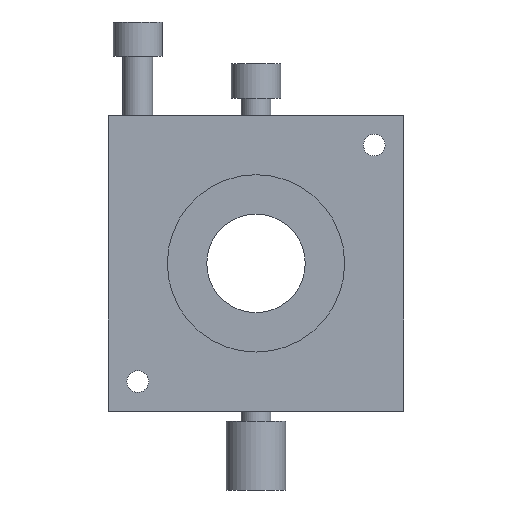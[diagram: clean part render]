
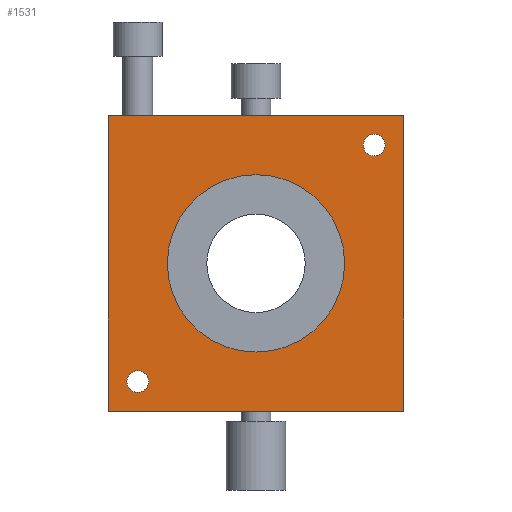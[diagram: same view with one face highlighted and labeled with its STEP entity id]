
A CAD part, front view. The second image highlights one B-rep face of the part: STEP entity #1531.
In plain terms, the highlighted planar face has unit normal (0, -1, 0).
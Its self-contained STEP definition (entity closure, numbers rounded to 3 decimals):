
#166 = CARTESIAN_POINT ( 'NONE',  ( 0., 0., -9. ) ) ;
#167 = DIRECTION ( 'NONE',  ( 0., 0., 1. ) ) ;
#168 = DIRECTION ( 'NONE',  ( 0., 1., 0. ) ) ;
#169 = CARTESIAN_POINT ( 'NONE',  ( 0., 0., 0. ) ) ;
#170 = AXIS2_PLACEMENT_3D ( 'NONE', #169, #168, #167 ) ;
#171 = CIRCLE ( 'NONE', #170, 9. ) ;
#172 = CARTESIAN_POINT ( 'NONE',  ( 0., 0., 9. ) ) ;
#417 = CIRCLE ( 'NONE', #482, 1.1 ) ;
#422 = CARTESIAN_POINT ( 'NONE',  ( 12., 0., 13.1 ) ) ;
#424 = CARTESIAN_POINT ( 'NONE',  ( -12., 0., -10.9 ) ) ;
#478 = CARTESIAN_POINT ( 'NONE',  ( -12., 0., -13.1 ) ) ;
#479 = DIRECTION ( 'NONE',  ( 0., 0., 1. ) ) ;
#480 = DIRECTION ( 'NONE',  ( 0., 1., 0. ) ) ;
#481 = CARTESIAN_POINT ( 'NONE',  ( -12., 0., -12. ) ) ;
#482 = AXIS2_PLACEMENT_3D ( 'NONE', #481, #480, #479 ) ;
#538 = CARTESIAN_POINT ( 'NONE',  ( 12., 0., 10.9 ) ) ;
#539 = DIRECTION ( 'NONE',  ( 0., 0., 1. ) ) ;
#540 = DIRECTION ( 'NONE',  ( 0., 1., 0. ) ) ;
#541 = CARTESIAN_POINT ( 'NONE',  ( 12., 0., 12. ) ) ;
#542 = AXIS2_PLACEMENT_3D ( 'NONE', #541, #540, #539 ) ;
#543 = CIRCLE ( 'NONE', #542, 1.1 ) ;
#809 = DIRECTION ( 'NONE',  ( 0., 0., 1. ) ) ;
#810 = DIRECTION ( 'NONE',  ( 0., 1., 0. ) ) ;
#811 = AXIS2_PLACEMENT_3D ( 'NONE', #817, #810, #809 ) ;
#812 = CIRCLE ( 'NONE', #811, 1.1 ) ;
#817 = CARTESIAN_POINT ( 'NONE',  ( 12., 0., 12. ) ) ;
#855 = DIRECTION ( 'NONE',  ( 0., 0., 1. ) ) ;
#856 = DIRECTION ( 'NONE',  ( 0., 1., 0. ) ) ;
#857 = CARTESIAN_POINT ( 'NONE',  ( -12., 0., -12. ) ) ;
#858 = AXIS2_PLACEMENT_3D ( 'NONE', #857, #856, #855 ) ;
#859 = CIRCLE ( 'NONE', #858, 1.1 ) ;
#1491 = EDGE_CURVE ( 'NONE', #1934, #1937, #2660, .T. ) ;
#1531 = ADVANCED_FACE ( 'NONE', ( #2739, #2734, #2733, #2732 ), #2731, .T. ) ;
#1532 = EDGE_LOOP ( 'NONE', ( #1533, #1534 ) ) ;
#1533 = ORIENTED_EDGE ( 'NONE', *, *, #2266, .T. ) ;
#1534 = ORIENTED_EDGE ( 'NONE', *, *, #2058, .T. ) ;
#1535 = EDGE_LOOP ( 'NONE', ( #1536, #1537 ) ) ;
#1536 = ORIENTED_EDGE ( 'NONE', *, *, #2258, .T. ) ;
#1537 = ORIENTED_EDGE ( 'NONE', *, *, #2092, .T. ) ;
#1538 = EDGE_LOOP ( 'NONE', ( #1539, #1543, #1593, #1596 ) ) ;
#1539 = ORIENTED_EDGE ( 'NONE', *, *, #1540, .F. ) ;
#1540 = EDGE_CURVE ( 'NONE', #1541, #1542, #2726, .T. ) ;
#1541 = VERTEX_POINT ( 'NONE', #2722 ) ;
#1542 = VERTEX_POINT ( 'NONE', #2721 ) ;
#1543 = ORIENTED_EDGE ( 'NONE', *, *, #1544, .F. ) ;
#1544 = EDGE_CURVE ( 'NONE', #1592, #1541, #2790, .T. ) ;
#1592 = VERTEX_POINT ( 'NONE', #2881 ) ;
#1593 = ORIENTED_EDGE ( 'NONE', *, *, #1594, .F. ) ;
#1594 = EDGE_CURVE ( 'NONE', #1595, #1592, #2880, .T. ) ;
#1595 = VERTEX_POINT ( 'NONE', #2876 ) ;
#1596 = ORIENTED_EDGE ( 'NONE', *, *, #1597, .F. ) ;
#1597 = EDGE_CURVE ( 'NONE', #1542, #1595, #2875, .T. ) ;
#1598 = EDGE_LOOP ( 'NONE', ( #1599, #1600 ) ) ;
#1599 = ORIENTED_EDGE ( 'NONE', *, *, #1936, .T. ) ;
#1600 = ORIENTED_EDGE ( 'NONE', *, *, #1491, .T. ) ;
#1934 = VERTEX_POINT ( 'NONE', #172 ) ;
#1936 = EDGE_CURVE ( 'NONE', #1937, #1934, #171, .T. ) ;
#1937 = VERTEX_POINT ( 'NONE', #166 ) ;
#2053 = VERTEX_POINT ( 'NONE', #424 ) ;
#2055 = VERTEX_POINT ( 'NONE', #422 ) ;
#2058 = EDGE_CURVE ( 'NONE', #2059, #2053, #417, .T. ) ;
#2059 = VERTEX_POINT ( 'NONE', #478 ) ;
#2092 = EDGE_CURVE ( 'NONE', #2093, #2055, #543, .T. ) ;
#2093 = VERTEX_POINT ( 'NONE', #538 ) ;
#2258 = EDGE_CURVE ( 'NONE', #2055, #2093, #812, .T. ) ;
#2266 = EDGE_CURVE ( 'NONE', #2053, #2059, #859, .T. ) ;
#2657 = DIRECTION ( 'NONE',  ( 0., 0., 1. ) ) ;
#2658 = DIRECTION ( 'NONE',  ( 0., 1., 0. ) ) ;
#2659 = AXIS2_PLACEMENT_3D ( 'NONE', #2665, #2658, #2657 ) ;
#2660 = CIRCLE ( 'NONE', #2659, 9. ) ;
#2665 = CARTESIAN_POINT ( 'NONE',  ( 0., 0., 0. ) ) ;
#2721 = CARTESIAN_POINT ( 'NONE',  ( -15., 0., 15. ) ) ;
#2722 = CARTESIAN_POINT ( 'NONE',  ( -15., 0., -15. ) ) ;
#2723 = DIRECTION ( 'NONE',  ( 0., 0., 1. ) ) ;
#2724 = VECTOR ( 'NONE', #2723, 1000. ) ;
#2725 = CARTESIAN_POINT ( 'NONE',  ( -15., 0., 15. ) ) ;
#2726 = LINE ( 'NONE', #2725, #2724 ) ;
#2727 = DIRECTION ( 'NONE',  ( 0., 0., -1. ) ) ;
#2728 = DIRECTION ( 'NONE',  ( 0., -1., 0. ) ) ;
#2729 = CARTESIAN_POINT ( 'NONE',  ( -15., 0., -15. ) ) ;
#2730 = AXIS2_PLACEMENT_3D ( 'NONE', #2729, #2728, #2727 ) ;
#2731 = PLANE ( 'NONE',  #2730 ) ;
#2732 = FACE_BOUND ( 'NONE', #1598, .T. ) ;
#2733 = FACE_OUTER_BOUND ( 'NONE', #1538, .T. ) ;
#2734 = FACE_BOUND ( 'NONE', #1535, .T. ) ;
#2739 = FACE_BOUND ( 'NONE', #1532, .T. ) ;
#2787 = DIRECTION ( 'NONE',  ( -1., 0., 0. ) ) ;
#2788 = VECTOR ( 'NONE', #2787, 1000. ) ;
#2789 = CARTESIAN_POINT ( 'NONE',  ( -15., 0., -15. ) ) ;
#2790 = LINE ( 'NONE', #2789, #2788 ) ;
#2872 = DIRECTION ( 'NONE',  ( 1., 0., 0. ) ) ;
#2873 = VECTOR ( 'NONE', #2872, 1000. ) ;
#2874 = CARTESIAN_POINT ( 'NONE',  ( -15., 0., 15. ) ) ;
#2875 = LINE ( 'NONE', #2874, #2873 ) ;
#2876 = CARTESIAN_POINT ( 'NONE',  ( 15., 0., 15. ) ) ;
#2877 = DIRECTION ( 'NONE',  ( 0., 0., -1. ) ) ;
#2878 = VECTOR ( 'NONE', #2877, 1000. ) ;
#2879 = CARTESIAN_POINT ( 'NONE',  ( 15., 0., 15. ) ) ;
#2880 = LINE ( 'NONE', #2879, #2878 ) ;
#2881 = CARTESIAN_POINT ( 'NONE',  ( 15., 0., -15. ) ) ;
